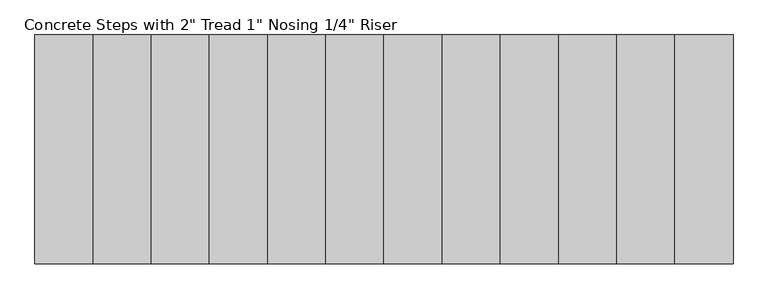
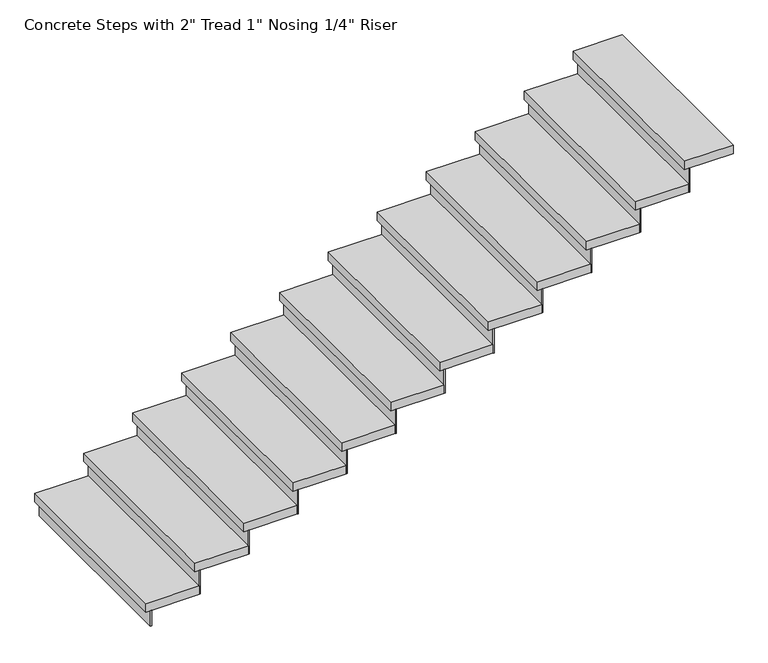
"""IFC4 building model written with IfcOpenShell, lengths in millimetres: stair flight geometry."""

from ifc_helpers import new_model, si_unit, frame, origin, origin_with_axes, place, context, project, spatial, polyline, outline, extrude, source, transform, mapped, element, save


def stair_flight_dccb4828(model_context):
    return source(origin(), model_context, "Body", "SweptSolid", [
        extrude(outline(polyline([(-18973.5313244, 8376.9937722), (-18979.8813244, 8376.9937722), (-18979.8813244, 9475.3913722), (-18973.5313244, 9475.3913722), (-18973.5313244, 8376.9937722)])), origin_with_axes(), (0.0, 0.0, 1.0), 94.3428571),
        extrude(outline(polyline([(-18700.4813244, 9475.3913722), (-18700.4813244, 8376.9937722), (-19005.2813244, 8376.9937722), (-19005.2813244, 9475.3913722), (-18700.4813244, 9475.3913722)])), frame((0.0, 0.0, 94.3428571), z_axis=(0.0, 0.0, 1.0), x_axis=(1.0, 0.0, 0.0)), (0.0, 0.0, 1.0), 50.8),
        extrude(outline(polyline([(-18694.1313244, 8376.9937722), (-18700.4813244, 8376.9937722), (-18700.4813244, 9475.3913722), (-18694.1313244, 9475.3913722), (-18694.1313244, 8376.9937722)])), frame((0.0, 0.0, 94.3428571), z_axis=(0.0, 0.0, 1.0), x_axis=(1.0, 0.0, 0.0)), (0.0, 0.0, 1.0), 145.1428571),
        extrude(outline(polyline([(-18421.0813244, 9475.3913722), (-18421.0813244, 8376.9937722), (-18725.8813244, 8376.9937722), (-18725.8813244, 9475.3913722), (-18421.0813244, 9475.3913722)])), frame((0.0, 0.0, 239.4857143), z_axis=(0.0, 0.0, 1.0), x_axis=(1.0, 0.0, 0.0)), (0.0, 0.0, 1.0), 50.8),
        extrude(outline(polyline([(-18414.7313244, 8376.9937722), (-18421.0813244, 8376.9937722), (-18421.0813244, 9475.3913722), (-18414.7313244, 9475.3913722), (-18414.7313244, 8376.9937722)])), frame((0.0, 0.0, 239.4857143), z_axis=(0.0, 0.0, 1.0), x_axis=(1.0, 0.0, 0.0)), (0.0, 0.0, 1.0), 145.1428571),
        extrude(outline(polyline([(-18141.6813244, 9475.3913722), (-18141.6813244, 8376.9937722), (-18446.4813244, 8376.9937722), (-18446.4813244, 9475.3913722), (-18141.6813244, 9475.3913722)])), frame((0.0, 0.0, 384.6285714), z_axis=(0.0, 0.0, 1.0), x_axis=(1.0, 0.0, 0.0)), (0.0, 0.0, 1.0), 50.8),
        extrude(outline(polyline([(-18135.3313244, 8376.9937722), (-18141.6813244, 8376.9937722), (-18141.6813244, 9475.3913722), (-18135.3313244, 9475.3913722), (-18135.3313244, 8376.9937722)])), frame((0.0, 0.0, 384.6285714), z_axis=(0.0, 0.0, 1.0), x_axis=(1.0, 0.0, 0.0)), (0.0, 0.0, 1.0), 145.1428571),
        extrude(outline(polyline([(-17862.2813244, 9475.3913722), (-17862.2813244, 8376.9937722), (-18167.0813244, 8376.9937722), (-18167.0813244, 9475.3913722), (-17862.2813244, 9475.3913722)])), frame((0.0, 0.0, 529.7714286), z_axis=(0.0, 0.0, 1.0), x_axis=(1.0, 0.0, 0.0)), (0.0, 0.0, 1.0), 50.8),
        extrude(outline(polyline([(-17855.9313244, 8376.9937722), (-17862.2813244, 8376.9937722), (-17862.2813244, 9475.3913722), (-17855.9313244, 9475.3913722), (-17855.9313244, 8376.9937722)])), frame((0.0, 0.0, 529.7714286), z_axis=(0.0, 0.0, 1.0), x_axis=(1.0, 0.0, 0.0)), (0.0, 0.0, 1.0), 145.1428571),
        extrude(outline(polyline([(-17582.8813244, 9475.3913722), (-17582.8813244, 8376.9937722), (-17887.6813244, 8376.9937722), (-17887.6813244, 9475.3913722), (-17582.8813244, 9475.3913722)])), frame((0.0, 0.0, 674.9142857), z_axis=(0.0, 0.0, 1.0), x_axis=(1.0, 0.0, 0.0)), (0.0, 0.0, 1.0), 50.8),
        extrude(outline(polyline([(-17576.5313244, 8376.9937722), (-17582.8813244, 8376.9937722), (-17582.8813244, 9475.3913722), (-17576.5313244, 9475.3913722), (-17576.5313244, 8376.9937722)])), frame((0.0, 0.0, 674.9142857), z_axis=(0.0, 0.0, 1.0), x_axis=(1.0, 0.0, 0.0)), (0.0, 0.0, 1.0), 145.1428571),
        extrude(outline(polyline([(-17303.4813244, 9475.3913722), (-17303.4813244, 8376.9937722), (-17608.2813244, 8376.9937722), (-17608.2813244, 9475.3913722), (-17303.4813244, 9475.3913722)])), frame((0.0, 0.0, 820.0571429), z_axis=(0.0, 0.0, 1.0), x_axis=(1.0, 0.0, 0.0)), (0.0, 0.0, 1.0), 50.8),
        extrude(outline(polyline([(-17297.1313244, 8376.9937722), (-17303.4813244, 8376.9937722), (-17303.4813244, 9475.3913722), (-17297.1313244, 9475.3913722), (-17297.1313244, 8376.9937722)])), frame((0.0, 0.0, 820.0571429), z_axis=(0.0, 0.0, 1.0), x_axis=(1.0, 0.0, 0.0)), (0.0, 0.0, 1.0), 145.1428571),
        extrude(outline(polyline([(-17024.0813244, 9475.3913722), (-17024.0813244, 8376.9937722), (-17328.8813244, 8376.9937722), (-17328.8813244, 9475.3913722), (-17024.0813244, 9475.3913722)])), frame((0.0, 0.0, 965.2), z_axis=(0.0, 0.0, 1.0), x_axis=(1.0, 0.0, 0.0)), (0.0, 0.0, 1.0), 50.8),
        extrude(outline(polyline([(-17017.7313244, 8376.9937722), (-17024.0813244, 8376.9937722), (-17024.0813244, 9475.3913722), (-17017.7313244, 9475.3913722), (-17017.7313244, 8376.9937722)])), frame((0.0, 0.0, 965.2), z_axis=(0.0, 0.0, 1.0), x_axis=(1.0, 0.0, 0.0)), (0.0, 0.0, 1.0), 145.1428571),
        extrude(outline(polyline([(-16744.6813244, 9475.3913722), (-16744.6813244, 8376.9937722), (-17049.4813244, 8376.9937722), (-17049.4813244, 9475.3913722), (-16744.6813244, 9475.3913722)])), frame((0.0, 0.0, 1110.3428571), z_axis=(0.0, 0.0, 1.0), x_axis=(1.0, 0.0, 0.0)), (0.0, 0.0, 1.0), 50.8),
        extrude(outline(polyline([(-16738.3313244, 8376.9937722), (-16744.6813244, 8376.9937722), (-16744.6813244, 9475.3913722), (-16738.3313244, 9475.3913722), (-16738.3313244, 8376.9937722)])), frame((0.0, 0.0, 1110.3428571), z_axis=(0.0, 0.0, 1.0), x_axis=(1.0, 0.0, 0.0)), (0.0, 0.0, 1.0), 145.1428571),
        extrude(outline(polyline([(-16465.2813244, 9475.3913722), (-16465.2813244, 8376.9937722), (-16770.0813244, 8376.9937722), (-16770.0813244, 9475.3913722), (-16465.2813244, 9475.3913722)])), frame((0.0, 0.0, 1255.4857143), z_axis=(0.0, 0.0, 1.0), x_axis=(1.0, 0.0, 0.0)), (0.0, 0.0, 1.0), 50.8),
        extrude(outline(polyline([(-16458.9313244, 8376.9937722), (-16465.2813244, 8376.9937722), (-16465.2813244, 9475.3913722), (-16458.9313244, 9475.3913722), (-16458.9313244, 8376.9937722)])), frame((0.0, 0.0, 1255.4857143), z_axis=(0.0, 0.0, 1.0), x_axis=(1.0, 0.0, 0.0)), (0.0, 0.0, 1.0), 145.1428571),
        extrude(outline(polyline([(-16185.8813244, 9475.3913722), (-16185.8813244, 8376.9937722), (-16490.6813244, 8376.9937722), (-16490.6813244, 9475.3913722), (-16185.8813244, 9475.3913722)])), frame((0.0, 0.0, 1400.6285714), z_axis=(0.0, 0.0, 1.0), x_axis=(1.0, 0.0, 0.0)), (0.0, 0.0, 1.0), 50.8),
        extrude(outline(polyline([(-16179.5313244, 8376.9937722), (-16185.8813244, 8376.9937722), (-16185.8813244, 9475.3913722), (-16179.5313244, 9475.3913722), (-16179.5313244, 8376.9937722)])), frame((0.0, 0.0, 1400.6285714), z_axis=(0.0, 0.0, 1.0), x_axis=(1.0, 0.0, 0.0)), (0.0, 0.0, 1.0), 145.1428571),
        extrude(outline(polyline([(-15906.4813244, 9475.3913722), (-15906.4813244, 8376.9937722), (-16211.2813244, 8376.9937722), (-16211.2813244, 9475.3913722), (-15906.4813244, 9475.3913722)])), frame((0.0, 0.0, 1545.7714286), z_axis=(0.0, 0.0, 1.0), x_axis=(1.0, 0.0, 0.0)), (0.0, 0.0, 1.0), 50.8),
        extrude(outline(polyline([(-15900.1313244, 8376.9937722), (-15906.4813244, 8376.9937722), (-15906.4813244, 9475.3913722), (-15900.1313244, 9475.3913722), (-15900.1313244, 8376.9937722)])), frame((0.0, 0.0, 1545.7714286), z_axis=(0.0, 0.0, 1.0), x_axis=(1.0, 0.0, 0.0)), (0.0, 0.0, 1.0), 145.1428571),
        extrude(outline(polyline([(-15652.4813244, 9475.3913722), (-15652.4813244, 8376.9937722), (-15931.8813244, 8376.9937722), (-15931.8813244, 9475.3913722), (-15652.4813244, 9475.3913722)])), frame((0.0, 0.0, 1690.9142857), z_axis=(0.0, 0.0, 1.0), x_axis=(1.0, 0.0, 0.0)), (0.0, 0.0, 1.0), 50.8),
    ])


if __name__ == "__main__":
    model = new_model("IFC4")
    model_context = context("Model", 3, world=origin())
    ifc_project = project(units=[si_unit("LENGTHUNIT", "METRE", prefix="MILLI")], contexts=[model_context])
    site = spatial("IfcSite", under=ifc_project)
    building = spatial("IfcBuilding", under=site)
    placement = place(None, origin())
    stair_flight_shape = stair_flight_dccb4828(model_context)
    element("IfcStairFlight", 1, ObjectType="Concrete Steps with 2\" Tread 1\" Nosing 1/4\" Riser", at=placement, inside=building, context=model_context, shape_type="MappedRepresentation", body=[
        mapped(stair_flight_shape, transform((0.0, 0.0, 0.0), x_axis=(1.0, 0.0, 0.0), y_axis=(0.0, 1.0, 0.0), z_axis=(0.0, 0.0, 1.0))),
    ])
    save(model, "model.ifc")
